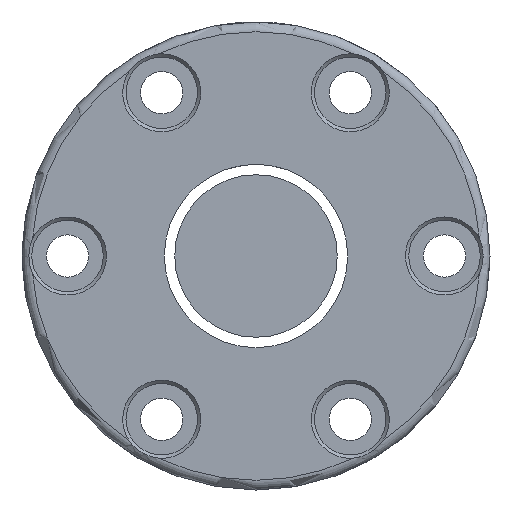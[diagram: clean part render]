
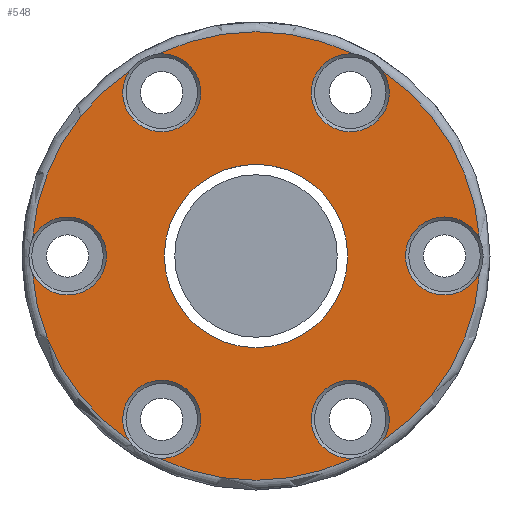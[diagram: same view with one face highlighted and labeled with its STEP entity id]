
A CAD part, left-side view. The second image highlights one B-rep face of the part: STEP entity #548.
In plain terms, the highlighted planar face has unit normal (-1, 0, 0).
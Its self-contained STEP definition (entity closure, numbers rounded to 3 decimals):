
#45 = AXIS2_PLACEMENT_3D ( 'NONE', #2851, #3033, #2061 ) ;
#51 = CARTESIAN_POINT ( 'NONE',  ( -80., -34.401, -2.614 ) ) ;
#57 = VERTEX_POINT ( 'NONE', #1808 ) ;
#69 = VERTEX_POINT ( 'NONE', #2297 ) ;
#80 = CARTESIAN_POINT ( 'NONE',  ( -80., 0., 0. ) ) ;
#96 = EDGE_CURVE ( 'NONE', #2641, #161, #1012, .T. ) ;
#133 = CIRCLE ( 'NONE', #2564, 34.5 ) ;
#161 = VERTEX_POINT ( 'NONE', #876 ) ;
#204 = ORIENTED_EDGE ( 'NONE', *, *, #658, .T. ) ;
#223 = DIRECTION ( 'NONE',  ( -1., 0., 0. ) ) ;
#283 = EDGE_CURVE ( 'NONE', #1920, #2641, #1831, .T. ) ;
#302 = ORIENTED_EDGE ( 'NONE', *, *, #1833, .T. ) ;
#338 = ORIENTED_EDGE ( 'NONE', *, *, #837, .T. ) ;
#382 = EDGE_CURVE ( 'NONE', #2445, #2022, #2936, .T. ) ;
#460 = FACE_BOUND ( 'NONE', #648, .T. ) ;
#496 = VERTEX_POINT ( 'NONE', #1176 ) ;
#548 = ADVANCED_FACE ( 'NONE', ( #694, #460 ), #1433, .T. ) ;
#570 = DIRECTION ( 'NONE',  ( 0., -1., 0. ) ) ;
#620 = VERTEX_POINT ( 'NONE', #779 ) ;
#624 = AXIS2_PLACEMENT_3D ( 'NONE', #1775, #1304, #570 ) ;
#648 = EDGE_LOOP ( 'NONE', ( #677 ) ) ;
#658 = EDGE_CURVE ( 'NONE', #69, #2234, #1225, .T. ) ;
#672 = CIRCLE ( 'NONE', #1384, 6. ) ;
#676 = CARTESIAN_POINT ( 'NONE',  ( -80., 14.1, 0. ) ) ;
#677 = ORIENTED_EDGE ( 'NONE', *, *, #1596, .T. ) ;
#694 = FACE_OUTER_BOUND ( 'NONE', #2687, .T. ) ;
#741 = CARTESIAN_POINT ( 'NONE',  ( -80., 14.937, 31.099 ) ) ;
#779 = CARTESIAN_POINT ( 'NONE',  ( -80., -14.937, -31.099 ) ) ;
#808 = CARTESIAN_POINT ( 'NONE',  ( -80., 14.937, -31.099 ) ) ;
#835 = ORIENTED_EDGE ( 'NONE', *, *, #382, .T. ) ;
#837 = EDGE_CURVE ( 'NONE', #2234, #620, #2277, .T. ) ;
#853 = VERTEX_POINT ( 'NONE', #51 ) ;
#857 = CARTESIAN_POINT ( 'NONE',  ( -80., 0., 0. ) ) ;
#872 = ORIENTED_EDGE ( 'NONE', *, *, #1309, .T. ) ;
#876 = CARTESIAN_POINT ( 'NONE',  ( -80., -14.937, 31.099 ) ) ;
#893 = DIRECTION ( 'NONE',  ( 0., -1., 0. ) ) ;
#956 = ORIENTED_EDGE ( 'NONE', *, *, #96, .T. ) ;
#1012 = CIRCLE ( 'NONE', #1925, 6. ) ;
#1042 = DIRECTION ( 'NONE',  ( -1., 0., 0. ) ) ;
#1060 = DIRECTION ( 'NONE',  ( 0., -1., 0. ) ) ;
#1068 = ORIENTED_EDGE ( 'NONE', *, *, #3061, .T. ) ;
#1155 = VERTEX_POINT ( 'NONE', #676 ) ;
#1156 = ORIENTED_EDGE ( 'NONE', *, *, #283, .T. ) ;
#1157 = CARTESIAN_POINT ( 'NONE',  ( -80., 0., 0. ) ) ;
#1176 = CARTESIAN_POINT ( 'NONE',  ( -80., 34.401, -2.614 ) ) ;
#1180 = CIRCLE ( 'NONE', #2941, 34.5 ) ;
#1191 = DIRECTION ( 'NONE',  ( 0., -1., 0. ) ) ;
#1225 = CIRCLE ( 'NONE', #1678, 6. ) ;
#1274 = AXIS2_PLACEMENT_3D ( 'NONE', #2122, #3090, #893 ) ;
#1302 = EDGE_CURVE ( 'NONE', #57, #853, #2118, .T. ) ;
#1304 = DIRECTION ( 'NONE',  ( 1., 0., 0. ) ) ;
#1309 = EDGE_CURVE ( 'NONE', #2022, #1545, #1314, .T. ) ;
#1314 = CIRCLE ( 'NONE', #2924, 34.5 ) ;
#1330 = AXIS2_PLACEMENT_3D ( 'NONE', #1745, #2698, #2484 ) ;
#1333 = CARTESIAN_POINT ( 'NONE',  ( -80., 19.464, 28.485 ) ) ;
#1384 = AXIS2_PLACEMENT_3D ( 'NONE', #3060, #2847, #1663 ) ;
#1433 = PLANE ( 'NONE',  #3091 ) ;
#1523 = AXIS2_PLACEMENT_3D ( 'NONE', #80, #1042, #2760 ) ;
#1545 = VERTEX_POINT ( 'NONE', #3010 ) ;
#1546 = ORIENTED_EDGE ( 'NONE', *, *, #2723, .T. ) ;
#1596 = EDGE_CURVE ( 'NONE', #1155, #1155, #1960, .T. ) ;
#1598 = DIRECTION ( 'NONE',  ( 0., -1., 0. ) ) ;
#1648 = DIRECTION ( 'NONE',  ( 1., 0., 0. ) ) ;
#1663 = DIRECTION ( 'NONE',  ( 0., -1., 0. ) ) ;
#1678 = AXIS2_PLACEMENT_3D ( 'NONE', #1968, #2934, #2705 ) ;
#1745 = CARTESIAN_POINT ( 'NONE',  ( -80., 0., 0. ) ) ;
#1775 = CARTESIAN_POINT ( 'NONE',  ( -80., -14.5, -25.115 ) ) ;
#1807 = DIRECTION ( 'NONE',  ( 0., -1., 0. ) ) ;
#1808 = CARTESIAN_POINT ( 'NONE',  ( -80., -19.464, -28.485 ) ) ;
#1824 = DIRECTION ( 'NONE',  ( -1., 0., 0. ) ) ;
#1831 = CIRCLE ( 'NONE', #1523, 34.5 ) ;
#1833 = EDGE_CURVE ( 'NONE', #496, #69, #133, .T. ) ;
#1908 = CARTESIAN_POINT ( 'NONE',  ( -80., 0., 0. ) ) ;
#1920 = VERTEX_POINT ( 'NONE', #2891 ) ;
#1925 = AXIS2_PLACEMENT_3D ( 'NONE', #2779, #2077, #1060 ) ;
#1960 = CIRCLE ( 'NONE', #2371, 14.1 ) ;
#1968 = CARTESIAN_POINT ( 'NONE',  ( -80., 14.5, -25.115 ) ) ;
#1980 = AXIS2_PLACEMENT_3D ( 'NONE', #2059, #2259, #1807 ) ;
#2022 = VERTEX_POINT ( 'NONE', #1333 ) ;
#2059 = CARTESIAN_POINT ( 'NONE',  ( -80., -29., 0. ) ) ;
#2061 = DIRECTION ( 'NONE',  ( 0., -1., 0. ) ) ;
#2077 = DIRECTION ( 'NONE',  ( 1., 0., 0. ) ) ;
#2118 = CIRCLE ( 'NONE', #45, 34.5 ) ;
#2122 = CARTESIAN_POINT ( 'NONE',  ( -80., 14.5, 25.115 ) ) ;
#2187 = ORIENTED_EDGE ( 'NONE', *, *, #2489, .T. ) ;
#2234 = VERTEX_POINT ( 'NONE', #808 ) ;
#2259 = DIRECTION ( 'NONE',  ( 1., 0., 0. ) ) ;
#2277 = CIRCLE ( 'NONE', #1330, 34.5 ) ;
#2294 = ORIENTED_EDGE ( 'NONE', *, *, #1302, .T. ) ;
#2297 = CARTESIAN_POINT ( 'NONE',  ( -80., 19.464, -28.485 ) ) ;
#2371 = AXIS2_PLACEMENT_3D ( 'NONE', #1157, #1648, #2861 ) ;
#2394 = CARTESIAN_POINT ( 'NONE',  ( -80., 36., 0. ) ) ;
#2445 = VERTEX_POINT ( 'NONE', #741 ) ;
#2484 = DIRECTION ( 'NONE',  ( 0., -1., 0. ) ) ;
#2489 = EDGE_CURVE ( 'NONE', #161, #2445, #1180, .T. ) ;
#2564 = AXIS2_PLACEMENT_3D ( 'NONE', #1908, #2833, #2600 ) ;
#2599 = CIRCLE ( 'NONE', #624, 6. ) ;
#2600 = DIRECTION ( 'NONE',  ( 0., -1., 0. ) ) ;
#2641 = VERTEX_POINT ( 'NONE', #2994 ) ;
#2646 = CIRCLE ( 'NONE', #1980, 6. ) ;
#2660 = EDGE_CURVE ( 'NONE', #620, #57, #2599, .T. ) ;
#2687 = EDGE_LOOP ( 'NONE', ( #1546, #1156, #956, #2187, #835, #872, #1068, #302, #204, #338, #3004, #2294 ) ) ;
#2698 = DIRECTION ( 'NONE',  ( -1., 0., 0. ) ) ;
#2705 = DIRECTION ( 'NONE',  ( 0., -1., 0. ) ) ;
#2723 = EDGE_CURVE ( 'NONE', #853, #1920, #2646, .T. ) ;
#2760 = DIRECTION ( 'NONE',  ( 0., -1., 0. ) ) ;
#2779 = CARTESIAN_POINT ( 'NONE',  ( -80., -14.5, 25.115 ) ) ;
#2795 = DIRECTION ( 'NONE',  ( 0., -1., 0. ) ) ;
#2797 = DIRECTION ( 'NONE',  ( -1., 0., 0. ) ) ;
#2833 = DIRECTION ( 'NONE',  ( -1., 0., 0. ) ) ;
#2847 = DIRECTION ( 'NONE',  ( 1., 0., 0. ) ) ;
#2851 = CARTESIAN_POINT ( 'NONE',  ( -80., 0., 0. ) ) ;
#2861 = DIRECTION ( 'NONE',  ( 0., 1., 0. ) ) ;
#2891 = CARTESIAN_POINT ( 'NONE',  ( -80., -34.401, 2.614 ) ) ;
#2924 = AXIS2_PLACEMENT_3D ( 'NONE', #857, #2797, #1598 ) ;
#2934 = DIRECTION ( 'NONE',  ( 1., 0., 0. ) ) ;
#2936 = CIRCLE ( 'NONE', #1274, 6. ) ;
#2941 = AXIS2_PLACEMENT_3D ( 'NONE', #3048, #1824, #2795 ) ;
#2994 = CARTESIAN_POINT ( 'NONE',  ( -80., -19.464, 28.485 ) ) ;
#3004 = ORIENTED_EDGE ( 'NONE', *, *, #2660, .T. ) ;
#3010 = CARTESIAN_POINT ( 'NONE',  ( -80., 34.401, 2.614 ) ) ;
#3033 = DIRECTION ( 'NONE',  ( -1., 0., 0. ) ) ;
#3048 = CARTESIAN_POINT ( 'NONE',  ( -80., 0., 0. ) ) ;
#3060 = CARTESIAN_POINT ( 'NONE',  ( -80., 29., 0. ) ) ;
#3061 = EDGE_CURVE ( 'NONE', #1545, #496, #672, .T. ) ;
#3090 = DIRECTION ( 'NONE',  ( 1., 0., 0. ) ) ;
#3091 = AXIS2_PLACEMENT_3D ( 'NONE', #2394, #223, #1191 ) ;
